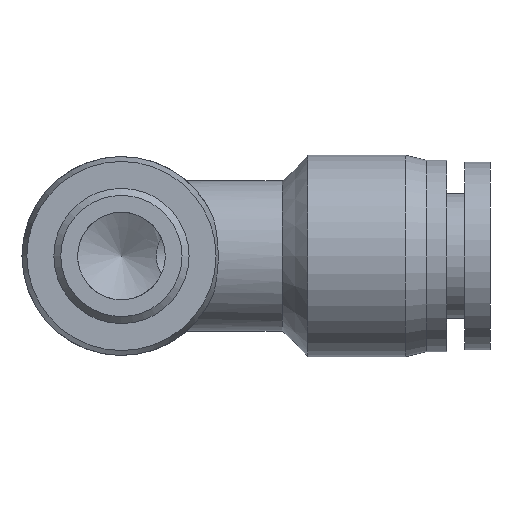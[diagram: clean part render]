
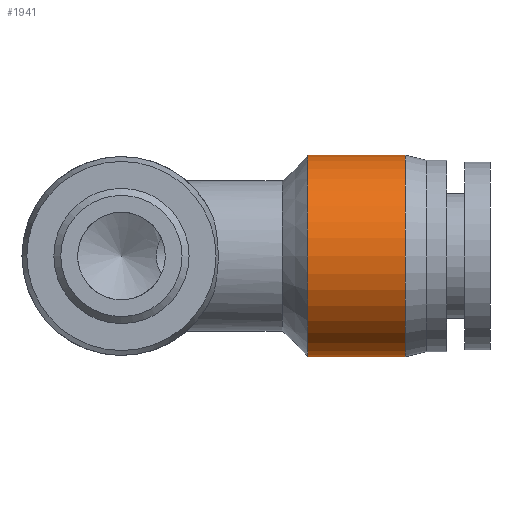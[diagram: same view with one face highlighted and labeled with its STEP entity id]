
A CAD part, front view. The second image highlights one B-rep face of the part: STEP entity #1941.
In plain terms, the highlighted cylindrical face has radius 7.25 mm (diameter 14.5 mm), a full revolution.
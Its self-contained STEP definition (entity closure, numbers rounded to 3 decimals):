
#1907=CARTESIAN_POINT('',(13.4,7.25,0.0));
#1908=VERTEX_POINT('',#1907);
#1909=CARTESIAN_POINT('',(13.4,0.0,0.0));
#1910=DIRECTION('',(1.0,0.0,0.0));
#1911=DIRECTION('',(0.0,1.0,0.0));
#1912=AXIS2_PLACEMENT_3D('',#1909,#1910,#1911);
#1913=CIRCLE('',#1912,7.25);
#1914=EDGE_CURVE('',#1908,#1908,#1913,.T.);
#1922=CARTESIAN_POINT('',(16.9,0.0,0.0));
#1923=DIRECTION('',(1.0,0.0,0.0));
#1924=DIRECTION('',(0.0,1.0,0.0));
#1925=AXIS2_PLACEMENT_3D('',#1922,#1923,#1924);
#1926=CYLINDRICAL_SURFACE('',#1925,7.25);
#1927=CARTESIAN_POINT('',(20.4,7.25,0.0));
#1928=VERTEX_POINT('',#1927);
#1929=CARTESIAN_POINT('',(20.4,0.0,0.0));
#1930=DIRECTION('',(1.0,0.0,0.0));
#1931=DIRECTION('',(0.0,1.0,0.0));
#1932=AXIS2_PLACEMENT_3D('',#1929,#1930,#1931);
#1933=CIRCLE('',#1932,7.25);
#1934=EDGE_CURVE('',#1928,#1928,#1933,.T.);
#1935=ORIENTED_EDGE('',*,*,#1934,.F.);
#1936=EDGE_LOOP('',(#1935));
#1937=FACE_OUTER_BOUND('',#1936,.T.);
#1938=ORIENTED_EDGE('',*,*,#1914,.T.);
#1939=EDGE_LOOP('',(#1938));
#1940=FACE_BOUND('',#1939,.T.);
#1941=ADVANCED_FACE('',(#1937,#1940),#1926,.T.);
